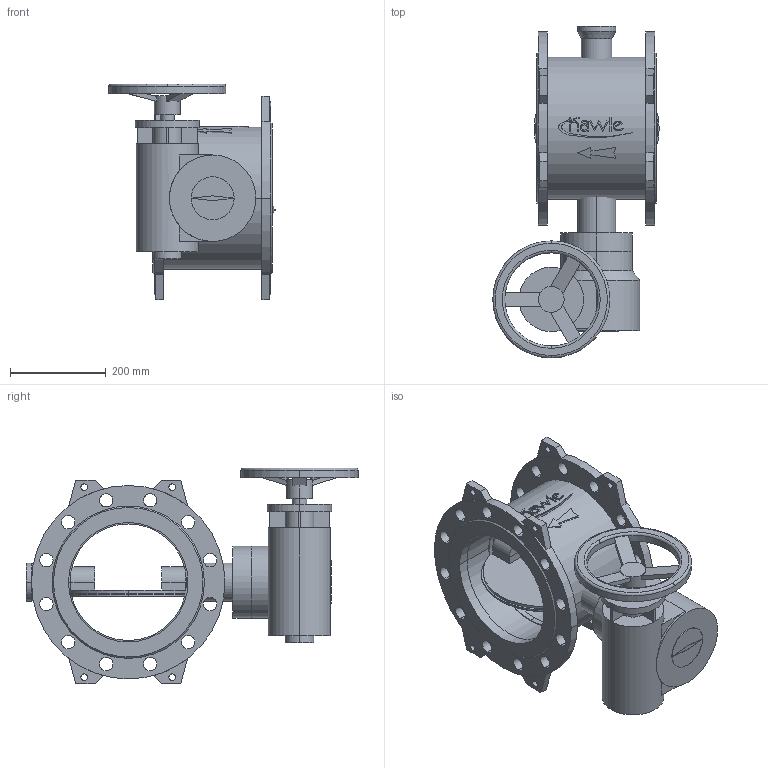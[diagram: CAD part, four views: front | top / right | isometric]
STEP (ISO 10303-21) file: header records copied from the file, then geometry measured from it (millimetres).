
FILE_DESCRIPTION(('STEP AP214'),'1');
FILE_NAME('S:/EK/USER/CAT6/3DHomepage_27-04-2012/neu_08-01-2013/9881K/9881K_PN16_DN250_7800.STP','2013-02-26T15:21:55',(' '),(' '),'Spatial InterOp 3D',' ',' ');
FILE_SCHEMA(('automotive_design'));
Length unit declared in the file: millimetre
Products named in the file (47): 3D-Objekt
Bounding box: 348.5 x 695 x 452 mm (x, y, z)
Volume: 16969770.2 mm3; surface area: 1677697.4 mm2
Topology: 47 solids, 47 shells, 395 faces, 894 edges, 596 vertices
Faces by surface type: plane 212, cylinder 171, cone 8, torus 4
Entity records: 15731 total; most frequent: DIRECTION 2170, CARTESIAN_POINT 2057, ORIENTED_EDGE 1788, EDGE_CURVE 894, AXIS2_PLACEMENT_3D 835, VERTEX_POINT 596, LINE 500, VECTOR 500
